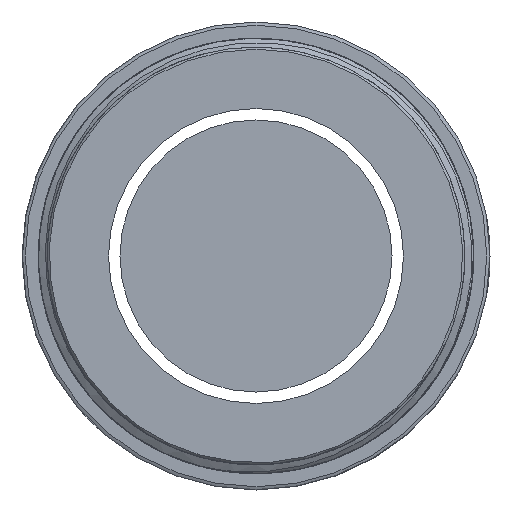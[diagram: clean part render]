
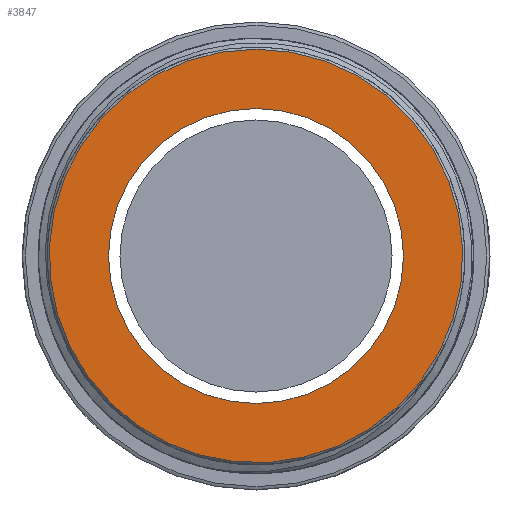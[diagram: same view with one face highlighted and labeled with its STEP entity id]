
A CAD part, left-side view. The second image highlights one B-rep face of the part: STEP entity #3847.
In plain terms, the highlighted planar face has unit normal (-1, 0, 0).
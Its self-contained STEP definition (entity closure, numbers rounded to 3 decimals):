
#273 = EDGE_LOOP ( 'NONE', ( #6887 ) ) ;
#786 = CIRCLE ( 'NONE', #9181, 19. ) ;
#1211 = CIRCLE ( 'NONE', #7322, 13.55 ) ;
#1684 = FACE_BOUND ( 'NONE', #9141, .T. ) ;
#2728 = CARTESIAN_POINT ( 'NONE',  ( -69., 0., 0. ) ) ;
#3024 = DIRECTION ( 'NONE',  ( -1., 0., 0. ) ) ;
#3104 = DIRECTION ( 'NONE',  ( 0., 0., 1. ) ) ;
#3847 = ADVANCED_FACE ( 'NONE', ( #9067, #1684 ), #7265, .T. ) ;
#4751 = EDGE_CURVE ( 'NONE', #5445, #5445, #786, .T. ) ;
#5239 = DIRECTION ( 'NONE',  ( 0., 0., -1. ) ) ;
#5445 = VERTEX_POINT ( 'NONE', #7045 ) ;
#5774 = CARTESIAN_POINT ( 'NONE',  ( -69., 20., 0. ) ) ;
#6061 = DIRECTION ( 'NONE',  ( 1., 0., 0. ) ) ;
#6378 = AXIS2_PLACEMENT_3D ( 'NONE', #5774, #10615, #3104 ) ;
#6887 = ORIENTED_EDGE ( 'NONE', *, *, #4751, .T. ) ;
#6933 = VERTEX_POINT ( 'NONE', #10283 ) ;
#7045 = CARTESIAN_POINT ( 'NONE',  ( -69., 0., 19. ) ) ;
#7265 = PLANE ( 'NONE',  #6378 ) ;
#7322 = AXIS2_PLACEMENT_3D ( 'NONE', #2728, #6061, #5239 ) ;
#7961 = DIRECTION ( 'NONE',  ( 0., 0., 1. ) ) ;
#8830 = CARTESIAN_POINT ( 'NONE',  ( -69., 0., 0. ) ) ;
#8967 = EDGE_CURVE ( 'NONE', #6933, #6933, #1211, .T. ) ;
#9067 = FACE_OUTER_BOUND ( 'NONE', #273, .T. ) ;
#9141 = EDGE_LOOP ( 'NONE', ( #9859 ) ) ;
#9181 = AXIS2_PLACEMENT_3D ( 'NONE', #8830, #3024, #7961 ) ;
#9859 = ORIENTED_EDGE ( 'NONE', *, *, #8967, .T. ) ;
#10283 = CARTESIAN_POINT ( 'NONE',  ( -69., 0., -13.55 ) ) ;
#10615 = DIRECTION ( 'NONE',  ( -1., 0., 0. ) ) ;
